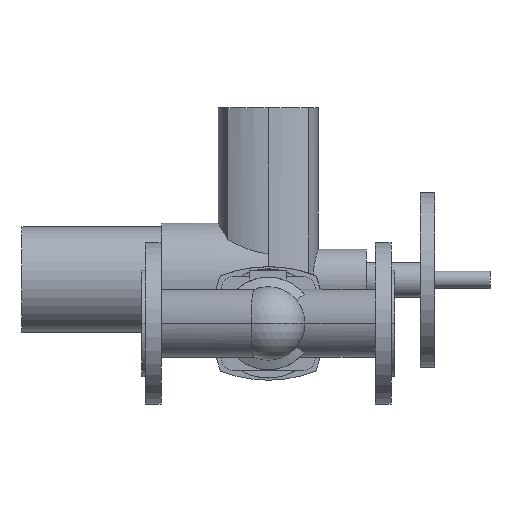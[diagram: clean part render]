
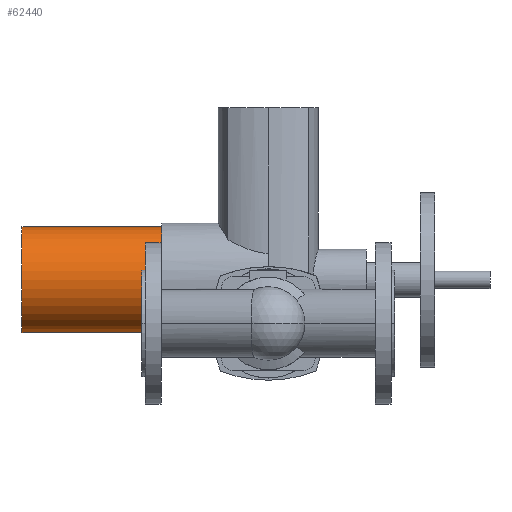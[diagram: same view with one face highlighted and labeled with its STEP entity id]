
A CAD part, front view. The second image highlights one B-rep face of the part: STEP entity #62440.
In plain terms, the highlighted cylindrical face has radius 60.5 mm (diameter 121 mm), a partial arc.
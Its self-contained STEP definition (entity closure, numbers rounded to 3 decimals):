
#62030=CARTESIAN_POINT('',(-57.,447.,50.));
#62040=DIRECTION('',(1.,0.,0.));
#62050=DIRECTION('',(0.,0.,-1.));
#62060=AXIS2_PLACEMENT_3D('',#62030,#62040,#62050);
#62070=CYLINDRICAL_SURFACE('',#62060,60.5);
#62080=CARTESIAN_POINT('',(-57.,447.,110.5));
#62090=DIRECTION('',(1.,0.,0.));
#62100=VECTOR('',#62090,1.);
#62110=LINE('',#62080,#62100);
#62120=CARTESIAN_POINT('',(-137.,447.,110.5));
#62130=VERTEX_POINT('',#62120);
#62140=CARTESIAN_POINT('',(23.,447.,110.5));
#62150=VERTEX_POINT('',#62140);
#62160=EDGE_CURVE('',#62130,#62150,#62110,.T.);
#62170=ORIENTED_EDGE('',*,*,#62160,.F.);
#62180=CARTESIAN_POINT('',(23.,447.,50.));
#62190=DIRECTION('',(-1.,0.,0.));
#62200=DIRECTION('',(0.,0.,-1.));
#62210=AXIS2_PLACEMENT_3D('',#62180,#62190,#62200);
#62220=CIRCLE('',#62210,60.5);
#62230=CARTESIAN_POINT('',(23.,447.,-10.5));
#62240=VERTEX_POINT('',#62230);
#62250=EDGE_CURVE('',#62240,#62150,#62220,.T.);
#62260=ORIENTED_EDGE('',*,*,#62250,.T.);
#62270=CARTESIAN_POINT('',(-57.,447.,-10.5));
#62280=DIRECTION('',(1.,0.,0.));
#62290=VECTOR('',#62280,1.);
#62300=LINE('',#62270,#62290);
#62310=CARTESIAN_POINT('',(-137.,447.,-10.5));
#62320=VERTEX_POINT('',#62310);
#62330=EDGE_CURVE('',#62320,#62240,#62300,.T.);
#62340=ORIENTED_EDGE('',*,*,#62330,.T.);
#62350=CARTESIAN_POINT('',(-137.,447.,50.));
#62360=DIRECTION('',(-1.,0.,0.));
#62370=DIRECTION('',(0.,0.,-1.));
#62380=AXIS2_PLACEMENT_3D('',#62350,#62360,#62370);
#62390=CIRCLE('',#62380,60.5);
#62400=EDGE_CURVE('',#62320,#62130,#62390,.T.);
#62410=ORIENTED_EDGE('',*,*,#62400,.F.);
#62420=EDGE_LOOP('',(#62410,#62340,#62260,#62170));
#62430=FACE_OUTER_BOUND('',#62420,.T.);
#62440=ADVANCED_FACE('',(#62430),#62070,.T.);
